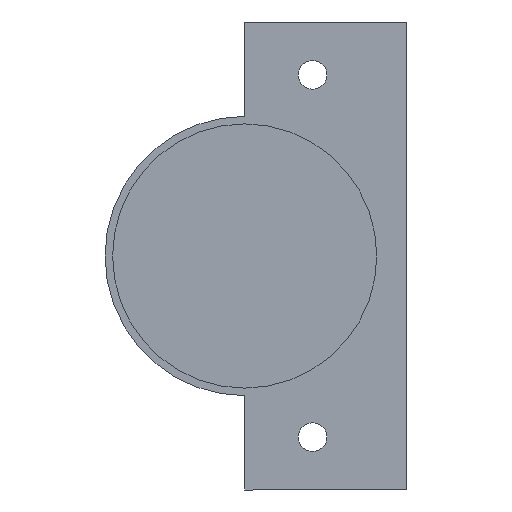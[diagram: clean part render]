
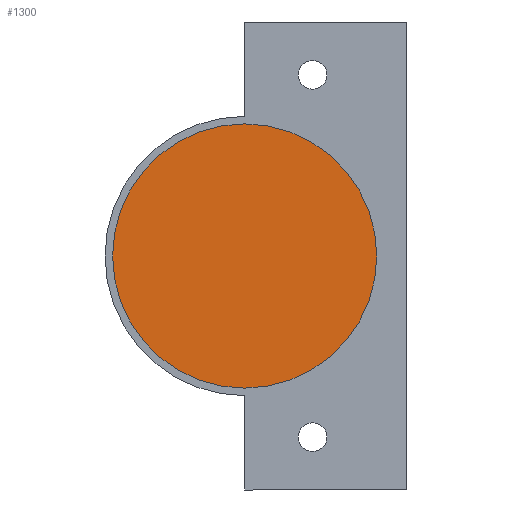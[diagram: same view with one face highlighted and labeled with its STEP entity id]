
A CAD part, front view. The second image highlights one B-rep face of the part: STEP entity #1300.
In plain terms, the highlighted planar face has unit normal (0, -1, 0).
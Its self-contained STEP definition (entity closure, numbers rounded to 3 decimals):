
#15 = VERTEX_POINT ( 'NONE', #95 ) ;
#47 = VERTEX_POINT ( 'NONE', #126 ) ;
#95 = CARTESIAN_POINT ( 'NONE',  ( 29.5, -12.6, 0. ) ) ;
#126 = CARTESIAN_POINT ( 'NONE',  ( -5.5, -12.6, 0. ) ) ;
#358 = CARTESIAN_POINT ( 'NONE',  ( 12., -12.6, 0. ) ) ;
#360 = DIRECTION ( 'NONE',  ( 0., -1., 0. ) ) ;
#361 = DIRECTION ( 'NONE',  ( 1., 0., 0. ) ) ;
#425 = CARTESIAN_POINT ( 'NONE',  ( 12., -12.6, 0. ) ) ;
#436 = DIRECTION ( 'NONE',  ( 0., -1., 0. ) ) ;
#437 = DIRECTION ( 'NONE',  ( 1., 0., 0. ) ) ;
#474 = EDGE_LOOP ( 'NONE', ( #525, #524 ) ) ;
#524 = ORIENTED_EDGE ( 'NONE', *, *, #1248, .T. ) ;
#525 = ORIENTED_EDGE ( 'NONE', *, *, #1183, .T. ) ;
#905 = CIRCLE ( 'NONE', #1252, 17.5 ) ;
#966 = CIRCLE ( 'NONE', #1253, 17.5 ) ;
#993 = FACE_OUTER_BOUND ( 'NONE', #474, .T. ) ;
#1006 = PLANE ( 'NONE',  #1274 ) ;
#1183 = EDGE_CURVE ( 'NONE', #47, #15, #905, .T. ) ;
#1248 = EDGE_CURVE ( 'NONE', #15, #47, #966, .T. ) ;
#1252 = AXIS2_PLACEMENT_3D ( 'NONE', #358, #360, #361 ) ;
#1253 = AXIS2_PLACEMENT_3D ( 'NONE', #425, #436, #437 ) ;
#1274 = AXIS2_PLACEMENT_3D ( 'NONE', #1349, #1372, #1373 ) ;
#1300 = ADVANCED_FACE ( 'NONE', ( #993 ), #1006, .T. ) ;
#1349 = CARTESIAN_POINT ( 'NONE',  ( 12., -12.6, 0. ) ) ;
#1372 = DIRECTION ( 'NONE',  ( 0., -1., 0. ) ) ;
#1373 = DIRECTION ( 'NONE',  ( 1., 0., 0. ) ) ;
